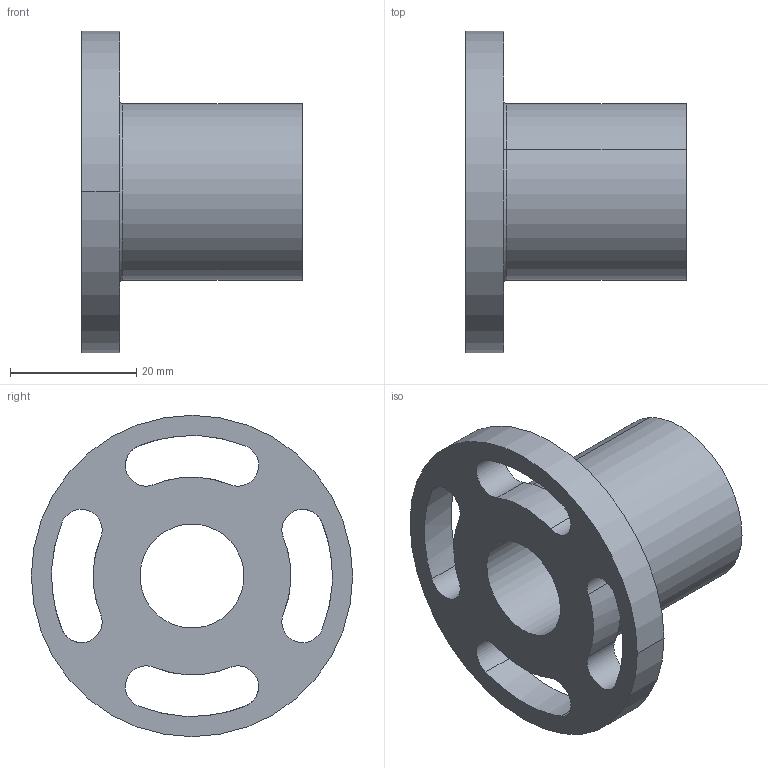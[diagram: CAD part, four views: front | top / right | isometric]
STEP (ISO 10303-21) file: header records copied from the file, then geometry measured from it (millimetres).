
FILE_DESCRIPTION(('CATIA V5 STEP Exchange'),'2;1');
FILE_NAME('C:\Users\aa\Documents\이댈\TM\CTM\CTM16.stp','2020-03-26T08:57:54+00:00',('none'),('none'),'CATIA Version 5 Release 20 SP 7 (IN-10)','CATIA V5 STEP AP203','none');
FILE_SCHEMA(('CONFIG_CONTROL_DESIGN'));
Length unit declared in the file: millimetre
Products named in the file (1): CTM16
Bounding box: 35 x 51 x 51 mm (x, y, z)
Volume: 19449.8 mm3; surface area: 9118.1 mm2
Topology: 1 solids, 1 shells, 27 faces, 70 edges, 46 vertices
Faces by surface type: cylinder 22, plane 3, torus 2
Entity records: 1134 total; most frequent: CARTESIAN_POINT 452, ORIENTED_EDGE 140, DIRECTION 102, EDGE_CURVE 70, AXIS2_PLACEMENT_3D 54, VERTEX_POINT 46, EDGE_LOOP 38, ADVANCED_FACE 27
